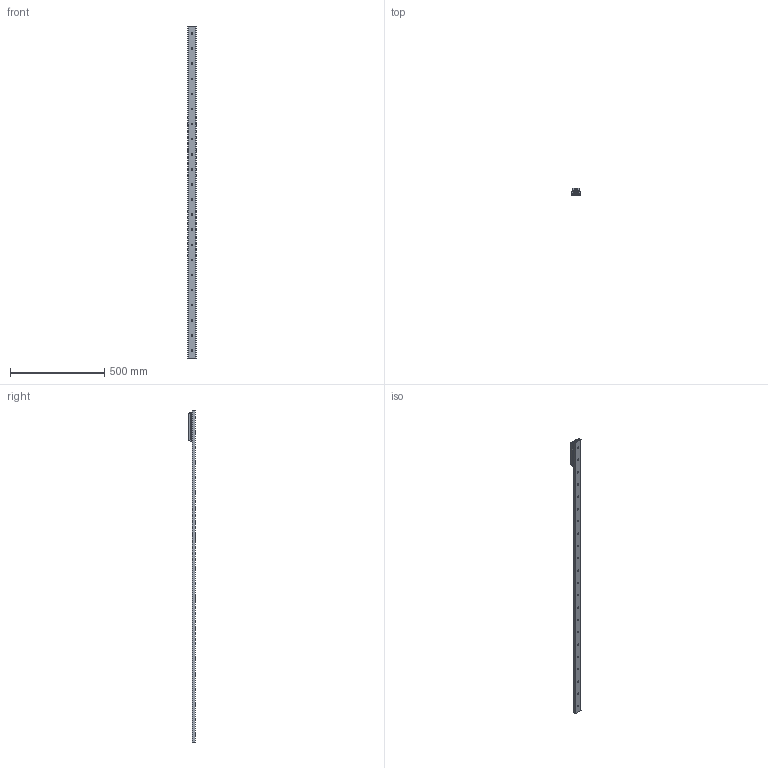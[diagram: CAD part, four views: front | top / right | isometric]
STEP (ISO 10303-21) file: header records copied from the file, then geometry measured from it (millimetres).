
FILE_DESCRIPTION( ( 'STEP AP214' ), '1' );
FILE_NAME( 'p:/temp/worker_55/temp/exporttempdir_2036_204_gWau0/format_0/TGV-01760_1_RV43G-3.stp', '2021-06-09T19:32:28', ( 'License CC BY-ND 4.0' ), ( 'CADENAS' ), ' ', 'PARTsolutions', ' ' );
FILE_SCHEMA( ( 'AUTOMOTIVE_DESIGN { 1 0 10303 214 1 1 1 1 }' ) );
Length unit declared in the file: millimetre
Products named in the file (6): TGV-01760/1/RV43G-3; _TGV43-1760-(3-1); _RVG43-3-slider; _RGNV43R; _RGAV43R; _WR43G-01
Assembly tree (7 placements, depth 2):
  TGV-01760/1/RV43G-3
    _TGV43-1760-(3-1)
    _RVG43-3-slider
    _RGNV43R  x2
    _RGAV43R
    _WR43G-01  x2
Bounding box: 43 x 37 x 1760 mm (x, y, z)
Volume: 765244.5 mm3; surface area: 307530.9 mm2
Topology: 7 solids, 7 shells, 1085 faces, 2834 edges, 1845 vertices
Faces by surface type: plane 663, cylinder 318, cone 61, bspline 34, torus 9
Full cylindrical faces by diameter (mm): 1.76 x4, 3 x8, 6 x4, 6.647 x4, 6.8 x3, 8 x3, 8.5 x22, 11 x11, 15 x6, 15.5 x1, 18.98 x2, 19 x1, 31.4 x6
Entity records: 26033 total; most frequent: CARTESIAN_POINT 4102, DIRECTION 3487, ORIENTED_EDGE 3196, EDGE_CURVE 1598, AXIS2_PLACEMENT_3D 1340, VERTEX_POINT 1117, EDGE_LOOP 929, LINE 807
